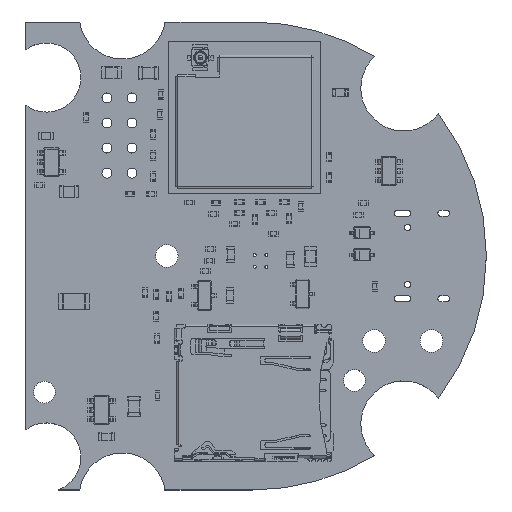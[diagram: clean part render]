
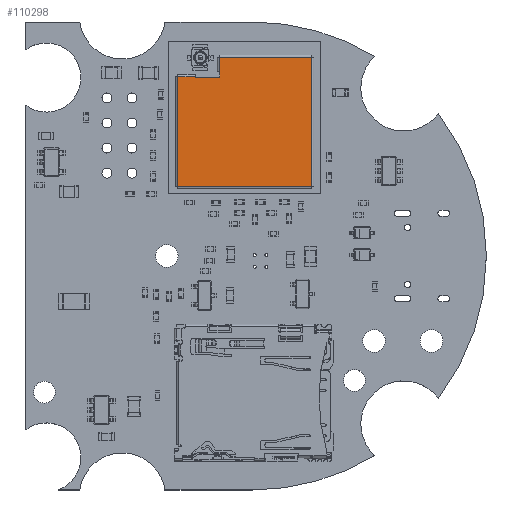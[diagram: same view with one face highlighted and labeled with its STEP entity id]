
A CAD part, top view. The second image highlights one B-rep face of the part: STEP entity #110298.
In plain terms, the highlighted planar face has unit normal (0, 0, 1) as drawn and (0, 1, 0) by its records, which use the part's own axes.
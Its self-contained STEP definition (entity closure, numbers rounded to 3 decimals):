
#109647 = VERTEX_POINT('',#109648);
#109648 = CARTESIAN_POINT('',(4.43,1.6,-13.35));
#110298 = ADVANCED_FACE('',(#110299),#110390,.F.);
#110299 = FACE_BOUND('',#110300,.T.);
#110300 = EDGE_LOOP('',(#110301,#110311,#110320,#110328,#110336,#110344,
    #110352,#110358,#110366,#110375,#110383));
#110301 = ORIENTED_EDGE('',*,*,#110302,.F.);
#110302 = EDGE_CURVE('',#110303,#110305,#110307,.T.);
#110303 = VERTEX_POINT('',#110304);
#110304 = CARTESIAN_POINT('',(2.08,1.6,-11.32));
#110305 = VERTEX_POINT('',#110306);
#110306 = CARTESIAN_POINT('',(4.38,1.6,-11.32));
#110307 = LINE('',#110308,#110309);
#110308 = CARTESIAN_POINT('',(1.98,1.6,-11.32));
#110309 = VECTOR('',#110310,1.);
#110310 = DIRECTION('',(1.,0.,0.));
#110311 = ORIENTED_EDGE('',*,*,#110312,.T.);
#110312 = EDGE_CURVE('',#110303,#110313,#110315,.T.);
#110313 = VERTEX_POINT('',#110314);
#110314 = CARTESIAN_POINT('',(1.993,1.6,-11.37));
#110315 = CIRCLE('',#110316,0.1);
#110316 = AXIS2_PLACEMENT_3D('',#110317,#110318,#110319);
#110317 = CARTESIAN_POINT('',(2.08,1.6,-11.42));
#110318 = DIRECTION('',(0.,-1.,0.));
#110319 = DIRECTION('',(0.,0.,-1.));
#110320 = ORIENTED_EDGE('',*,*,#110321,.T.);
#110321 = EDGE_CURVE('',#110313,#110322,#110324,.T.);
#110322 = VERTEX_POINT('',#110323);
#110323 = CARTESIAN_POINT('',(0.2,1.6,-11.37));
#110324 = LINE('',#110325,#110326);
#110325 = CARTESIAN_POINT('',(0.,1.6,-11.37));
#110326 = VECTOR('',#110327,1.);
#110327 = DIRECTION('',(-1.,0.,0.));
#110328 = ORIENTED_EDGE('',*,*,#110329,.T.);
#110329 = EDGE_CURVE('',#110322,#110330,#110332,.T.);
#110330 = VERTEX_POINT('',#110331);
#110331 = CARTESIAN_POINT('',(0.2,1.6,-0.2));
#110332 = LINE('',#110333,#110334);
#110333 = CARTESIAN_POINT('',(0.2,1.6,0.));
#110334 = VECTOR('',#110335,1.);
#110335 = DIRECTION('',(0.,0.,1.));
#110336 = ORIENTED_EDGE('',*,*,#110337,.T.);
#110337 = EDGE_CURVE('',#110330,#110338,#110340,.T.);
#110338 = VERTEX_POINT('',#110339);
#110339 = CARTESIAN_POINT('',(13.8,1.6,-0.2));
#110340 = LINE('',#110341,#110342);
#110341 = CARTESIAN_POINT('',(0.,1.6,-0.2));
#110342 = VECTOR('',#110343,1.);
#110343 = DIRECTION('',(1.,0.,0.));
#110344 = ORIENTED_EDGE('',*,*,#110345,.T.);
#110345 = EDGE_CURVE('',#110338,#110346,#110348,.T.);
#110346 = VERTEX_POINT('',#110347);
#110347 = CARTESIAN_POINT('',(13.8,1.6,-13.35));
#110348 = LINE('',#110349,#110350);
#110349 = CARTESIAN_POINT('',(13.8,1.6,0.));
#110350 = VECTOR('',#110351,1.);
#110351 = DIRECTION('',(0.,0.,-1.));
#110352 = ORIENTED_EDGE('',*,*,#110353,.T.);
#110353 = EDGE_CURVE('',#110346,#109647,#110354,.T.);
#110354 = LINE('',#110355,#110356);
#110355 = CARTESIAN_POINT('',(0.,1.6,-13.35));
#110356 = VECTOR('',#110357,1.);
#110357 = DIRECTION('',(-1.,0.,0.));
#110358 = ORIENTED_EDGE('',*,*,#110359,.T.);
#110359 = EDGE_CURVE('',#109647,#110360,#110362,.T.);
#110360 = VERTEX_POINT('',#110361);
#110361 = CARTESIAN_POINT('',(4.43,1.6,-11.907));
#110362 = LINE('',#110363,#110364);
#110363 = CARTESIAN_POINT('',(4.43,1.6,0.));
#110364 = VECTOR('',#110365,1.);
#110365 = DIRECTION('',(0.,0.,1.));
#110366 = ORIENTED_EDGE('',*,*,#110367,.T.);
#110367 = EDGE_CURVE('',#110360,#110368,#110370,.T.);
#110368 = VERTEX_POINT('',#110369);
#110369 = CARTESIAN_POINT('',(4.48,1.6,-11.82));
#110370 = CIRCLE('',#110371,0.1);
#110371 = AXIS2_PLACEMENT_3D('',#110372,#110373,#110374);
#110372 = CARTESIAN_POINT('',(4.38,1.6,-11.82));
#110373 = DIRECTION('',(0.,-1.,0.));
#110374 = DIRECTION('',(0.,0.,-1.));
#110375 = ORIENTED_EDGE('',*,*,#110376,.F.);
#110376 = EDGE_CURVE('',#110377,#110368,#110379,.T.);
#110377 = VERTEX_POINT('',#110378);
#110378 = CARTESIAN_POINT('',(4.48,1.6,-11.42));
#110379 = LINE('',#110380,#110381);
#110380 = CARTESIAN_POINT('',(4.48,1.6,-11.92));
#110381 = VECTOR('',#110382,1.);
#110382 = DIRECTION('',(0.,0.,-1.));
#110383 = ORIENTED_EDGE('',*,*,#110384,.T.);
#110384 = EDGE_CURVE('',#110377,#110305,#110385,.T.);
#110385 = CIRCLE('',#110386,0.1);
#110386 = AXIS2_PLACEMENT_3D('',#110387,#110388,#110389);
#110387 = CARTESIAN_POINT('',(4.38,1.6,-11.42));
#110388 = DIRECTION('',(0.,-1.,0.));
#110389 = DIRECTION('',(0.,0.,-1.));
#110390 = PLANE('',#110391);
#110391 = AXIS2_PLACEMENT_3D('',#110392,#110393,#110394);
#110392 = CARTESIAN_POINT('',(0.,1.6,0.));
#110393 = DIRECTION('',(0.,-1.,0.));
#110394 = DIRECTION('',(0.,0.,-1.));
